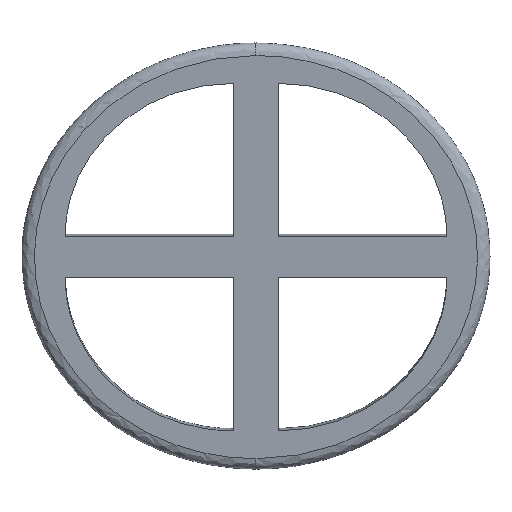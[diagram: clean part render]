
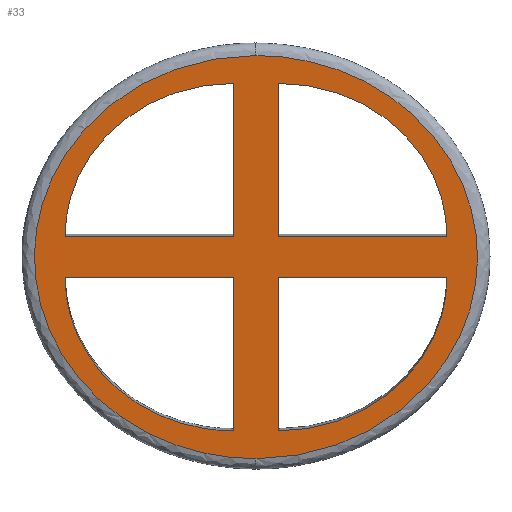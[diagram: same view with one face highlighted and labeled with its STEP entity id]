
A CAD part, front view. The second image highlights one B-rep face of the part: STEP entity #33.
In plain terms, the highlighted planar face has unit normal (-0.001, -0.994, -0.107).
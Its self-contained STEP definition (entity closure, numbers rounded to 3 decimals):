
#24=FACE_BOUND('',#70,.T.);
#25=FACE_BOUND('',#71,.T.);
#26=FACE_BOUND('',#72,.T.);
#27=FACE_BOUND('',#73,.T.);
#33=ADVANCED_FACE('',(#51,#24,#25,#26,#27),#308,.T.);
#51=FACE_OUTER_BOUND('',#69,.T.);
#69=EDGE_LOOP('',(#98,#99));
#70=EDGE_LOOP('',(#100,#101,#102));
#71=EDGE_LOOP('',(#103,#104,#105));
#72=EDGE_LOOP('',(#106,#107,#108));
#73=EDGE_LOOP('',(#109,#110,#111));
#98=ORIENTED_EDGE('',*,*,#197,.T.);
#99=ORIENTED_EDGE('',*,*,#231,.T.);
#100=ORIENTED_EDGE('',*,*,#204,.F.);
#101=ORIENTED_EDGE('',*,*,#189,.F.);
#102=ORIENTED_EDGE('',*,*,#188,.F.);
#103=ORIENTED_EDGE('',*,*,#190,.F.);
#104=ORIENTED_EDGE('',*,*,#208,.F.);
#105=ORIENTED_EDGE('',*,*,#191,.F.);
#106=ORIENTED_EDGE('',*,*,#192,.F.);
#107=ORIENTED_EDGE('',*,*,#215,.F.);
#108=ORIENTED_EDGE('',*,*,#193,.F.);
#109=ORIENTED_EDGE('',*,*,#225,.T.);
#110=ORIENTED_EDGE('',*,*,#194,.T.);
#111=ORIENTED_EDGE('',*,*,#195,.T.);
#188=EDGE_CURVE('',#279,#280,#232,.T.);
#189=EDGE_CURVE('',#280,#281,#233,.T.);
#190=EDGE_CURVE('',#283,#284,#234,.T.);
#191=EDGE_CURVE('',#284,#282,#235,.T.);
#192=EDGE_CURVE('',#286,#287,#236,.T.);
#193=EDGE_CURVE('',#287,#285,#237,.T.);
#194=EDGE_CURVE('',#288,#289,#238,.T.);
#195=EDGE_CURVE('',#289,#290,#239,.T.);
#197=EDGE_CURVE('',#303,#307,#259,.T.);
#204=EDGE_CURVE('',#281,#279,#261,.T.);
#208=EDGE_CURVE('',#282,#283,#265,.T.);
#215=EDGE_CURVE('',#285,#286,#269,.T.);
#225=EDGE_CURVE('',#290,#288,#271,.T.);
#231=EDGE_CURVE('',#307,#303,#277,.T.);
#232=B_SPLINE_CURVE_WITH_KNOTS('',1,(#1213,#1214),.UNSPECIFIED.,.F.,.F.,
(2,2),(6.283,6.783),.UNSPECIFIED.);
#233=B_SPLINE_CURVE_WITH_KNOTS('',1,(#1215,#1216),.UNSPECIFIED.,.F.,.F.,
(2,2),(6.783,7.783),.UNSPECIFIED.);
#234=B_SPLINE_CURVE_WITH_KNOTS('',1,(#1217,#1218),.UNSPECIFIED.,.F.,.F.,
(2,2),(5.142,6.142),.UNSPECIFIED.);
#235=B_SPLINE_CURVE_WITH_KNOTS('',1,(#1219,#1220),.UNSPECIFIED.,.F.,.F.,
(2,2),(6.142,6.642),.UNSPECIFIED.);
#236=B_SPLINE_CURVE_WITH_KNOTS('',1,(#1221,#1222),.UNSPECIFIED.,.F.,.F.,
(2,2),(6.142,7.142),.UNSPECIFIED.);
#237=B_SPLINE_CURVE_WITH_KNOTS('',1,(#1223,#1224),.UNSPECIFIED.,.F.,.F.,
(2,2),(7.142,7.642),.UNSPECIFIED.);
#238=B_SPLINE_CURVE_WITH_KNOTS('',1,(#1225,#1226),.UNSPECIFIED.,.F.,.F.,
(2,2),(0.,1.),.UNSPECIFIED.);
#239=B_SPLINE_CURVE_WITH_KNOTS('',1,(#1227,#1228),.UNSPECIFIED.,.F.,.F.,
(2,2),(1.,1.5),.UNSPECIFIED.);
#259=(
BOUNDED_CURVE()
B_SPLINE_CURVE(2,(#1234,#1235,#1236,#1237,#1238),.UNSPECIFIED.,.F.,.F.)
B_SPLINE_CURVE_WITH_KNOTS((3,2,3),(0.,1.571,3.142),
 .UNSPECIFIED.)
CURVE()
GEOMETRIC_REPRESENTATION_ITEM()
RATIONAL_B_SPLINE_CURVE((1.,0.707,1.,0.707,1.))
REPRESENTATION_ITEM('')
);
#261=(
BOUNDED_CURVE()
B_SPLINE_CURVE(2,(#1252,#1253,#1254),.UNSPECIFIED.,.F.,.F.)
B_SPLINE_CURVE_WITH_KNOTS((3,3),(7.783,9.354),
 .UNSPECIFIED.)
CURVE()
GEOMETRIC_REPRESENTATION_ITEM()
RATIONAL_B_SPLINE_CURVE((1.,0.707,1.))
REPRESENTATION_ITEM('')
);
#265=(
BOUNDED_CURVE()
B_SPLINE_CURVE(2,(#1262,#1263,#1264),.UNSPECIFIED.,.F.,.F.)
B_SPLINE_CURVE_WITH_KNOTS((3,3),(3.571,5.142),
 .UNSPECIFIED.)
CURVE()
GEOMETRIC_REPRESENTATION_ITEM()
RATIONAL_B_SPLINE_CURVE((1.,0.707,1.))
REPRESENTATION_ITEM('')
);
#269=(
BOUNDED_CURVE()
B_SPLINE_CURVE(2,(#1278,#1279,#1280),.UNSPECIFIED.,.F.,.F.)
B_SPLINE_CURVE_WITH_KNOTS((3,3),(4.571,6.142),
 .UNSPECIFIED.)
CURVE()
GEOMETRIC_REPRESENTATION_ITEM()
RATIONAL_B_SPLINE_CURVE((1.,0.707,1.))
REPRESENTATION_ITEM('')
);
#271=(
BOUNDED_CURVE()
B_SPLINE_CURVE(2,(#1300,#1301,#1302),.UNSPECIFIED.,.F.,.F.)
B_SPLINE_CURVE_WITH_KNOTS((3,3),(1.5,3.071),.UNSPECIFIED.)
CURVE()
GEOMETRIC_REPRESENTATION_ITEM()
RATIONAL_B_SPLINE_CURVE((1.,0.707,1.))
REPRESENTATION_ITEM('')
);
#277=(
BOUNDED_CURVE()
B_SPLINE_CURVE(2,(#1371,#1372,#1373,#1374,#1375),.UNSPECIFIED.,.F.,.F.)
B_SPLINE_CURVE_WITH_KNOTS((3,2,3),(3.142,4.712,6.283),
 .UNSPECIFIED.)
CURVE()
GEOMETRIC_REPRESENTATION_ITEM()
RATIONAL_B_SPLINE_CURVE((1.,0.707,1.,0.707,1.))
REPRESENTATION_ITEM('')
);
#279=VERTEX_POINT('',#1127);
#280=VERTEX_POINT('',#1128);
#281=VERTEX_POINT('',#1129);
#282=VERTEX_POINT('',#1130);
#283=VERTEX_POINT('',#1131);
#284=VERTEX_POINT('',#1132);
#285=VERTEX_POINT('',#1133);
#286=VERTEX_POINT('',#1134);
#287=VERTEX_POINT('',#1135);
#288=VERTEX_POINT('',#1136);
#289=VERTEX_POINT('',#1137);
#290=VERTEX_POINT('',#1138);
#303=VERTEX_POINT('',#1151);
#307=VERTEX_POINT('',#1155);
#308=PLANE('',#346);
#346=AXIS2_PLACEMENT_3D('',#552,#359,$);
#359=DIRECTION('',(-0.001,-0.994,-0.107));
#552=CARTESIAN_POINT('',(-32.317,-91.391,-20.775));
#1127=CARTESIAN_POINT('',(-3.316,-91.916,-16.233));
#1128=CARTESIAN_POINT('',(-3.316,-94.271,5.612));
#1129=CARTESIAN_POINT('',(-27.322,-94.242,5.615));
#1130=CARTESIAN_POINT('',(-3.316,-97.257,33.312));
#1131=CARTESIAN_POINT('',(-27.322,-94.873,11.47));
#1132=CARTESIAN_POINT('',(-3.316,-94.902,11.467));
#1133=CARTESIAN_POINT('',(3.119,-91.923,-16.234));
#1134=CARTESIAN_POINT('',(27.125,-94.308,5.608));
#1135=CARTESIAN_POINT('',(3.119,-94.279,5.611));
#1136=CARTESIAN_POINT('',(27.125,-94.939,11.463));
#1137=CARTESIAN_POINT('',(3.119,-94.91,11.466));
#1138=CARTESIAN_POINT('',(3.119,-97.265,33.311));
#1151=CARTESIAN_POINT('',(-0.098,-91.491,-20.204));
#1155=CARTESIAN_POINT('',(-0.098,-97.689,37.282));
#1213=CARTESIAN_POINT('',(-3.316,-91.916,-16.233));
#1214=CARTESIAN_POINT('',(-3.316,-94.271,5.612));
#1215=CARTESIAN_POINT('',(-3.316,-94.271,5.612));
#1216=CARTESIAN_POINT('',(-27.322,-94.242,5.615));
#1217=CARTESIAN_POINT('',(-27.322,-94.873,11.47));
#1218=CARTESIAN_POINT('',(-3.316,-94.902,11.467));
#1219=CARTESIAN_POINT('',(-3.316,-94.902,11.467));
#1220=CARTESIAN_POINT('',(-3.316,-97.257,33.312));
#1221=CARTESIAN_POINT('',(27.125,-94.308,5.608));
#1222=CARTESIAN_POINT('',(3.119,-94.279,5.611));
#1223=CARTESIAN_POINT('',(3.119,-94.279,5.611));
#1224=CARTESIAN_POINT('',(3.119,-91.923,-16.234));
#1225=CARTESIAN_POINT('',(27.125,-94.939,11.463));
#1226=CARTESIAN_POINT('',(3.119,-94.91,11.466));
#1227=CARTESIAN_POINT('',(3.119,-94.91,11.466));
#1228=CARTESIAN_POINT('',(3.119,-97.265,33.311));
#1234=CARTESIAN_POINT('',(-0.098,-91.491,-20.204));
#1235=CARTESIAN_POINT('',(31.489,-91.529,-20.208));
#1236=CARTESIAN_POINT('',(31.489,-94.628,8.535));
#1237=CARTESIAN_POINT('',(31.489,-97.727,37.278));
#1238=CARTESIAN_POINT('',(-0.098,-97.689,37.282));
#1252=CARTESIAN_POINT('',(-27.322,-94.242,5.615));
#1253=CARTESIAN_POINT('',(-27.322,-91.887,-16.23));
#1254=CARTESIAN_POINT('',(-3.316,-91.916,-16.233));
#1262=CARTESIAN_POINT('',(-3.316,-97.257,33.312));
#1263=CARTESIAN_POINT('',(-27.322,-97.228,33.315));
#1264=CARTESIAN_POINT('',(-27.322,-94.873,11.47));
#1278=CARTESIAN_POINT('',(3.119,-91.923,-16.234));
#1279=CARTESIAN_POINT('',(27.125,-91.952,-16.237));
#1280=CARTESIAN_POINT('',(27.125,-94.308,5.608));
#1300=CARTESIAN_POINT('',(3.119,-97.265,33.311));
#1301=CARTESIAN_POINT('',(27.125,-97.294,33.308));
#1302=CARTESIAN_POINT('',(27.125,-94.939,11.463));
#1371=CARTESIAN_POINT('',(-0.098,-97.689,37.282));
#1372=CARTESIAN_POINT('',(-31.685,-97.651,37.286));
#1373=CARTESIAN_POINT('',(-31.685,-94.552,8.543));
#1374=CARTESIAN_POINT('',(-31.685,-91.453,-20.2));
#1375=CARTESIAN_POINT('',(-0.098,-91.491,-20.204));
